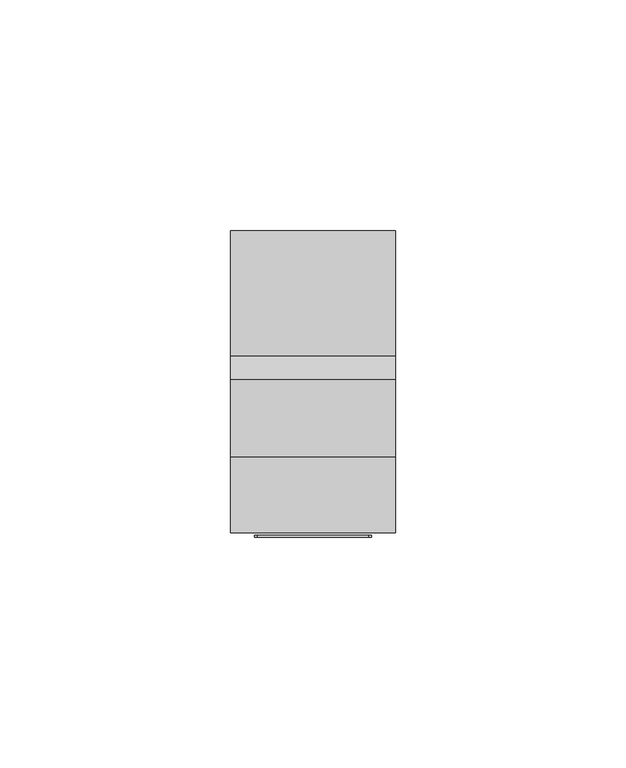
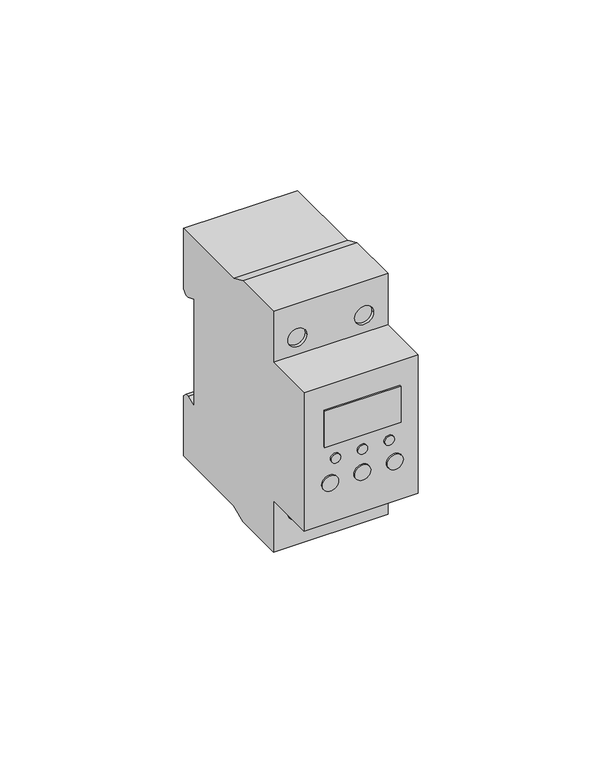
"""IFC4 building model written with IfcOpenShell, lengths in millimetres: proxy geometry, TDM_РЕЛЕ КОНТРОЛЯ НАПРЯЖЕНИЯ СЕРИИ РН 2 : 40А."""

from ifc_helpers import new_model, si_unit, point, frame, frame_2d, origin, place, context, project, spatial, polyline, circle_curve, trimmed, segment, composite_curve, outline, extrude, source, transform, mapped, element, save
from ifc_brep_helpers import plane_surface, revolved_surface, advanced_brep


def electrical_equipment_1063454b(model_context):
    return source(origin(), model_context, "Body", "SolidModel", [
        extrude(outline(composite_curve([segment(trimmed(circle_curve(frame_2d((-1.58976, 0.0)), 1.5), [point((-1.58976, -1.5))], [point((-1.58976, 1.5))], False, "CARTESIAN"), True, "CONTINUOUS"), segment(trimmed(circle_curve(frame_2d((-1.58976, 0.0)), 1.5), [point((-1.58976, 1.5))], [point((-1.58976, -1.5))], False, "CARTESIAN"), True, "CONTINUOUS")], self_intersect=False)), frame((0.0, -28.9880596, 0.0), z_axis=(0.0, 1.0, 0.0), x_axis=(0.0, 0.0, 1.0)), (0.0, 0.0, 1.0), 0.4880596),
        extrude(outline(composite_curve([segment(trimmed(circle_curve(frame_2d((-1.58976, 8.4375)), 1.5), [point((-1.58976, 6.9375))], [point((-1.58976, 9.9375))], False, "CARTESIAN"), True, "CONTINUOUS"), segment(trimmed(circle_curve(frame_2d((-1.58976, 8.4375)), 1.5), [point((-1.58976, 9.9375))], [point((-1.58976, 6.9375))], False, "CARTESIAN"), True, "CONTINUOUS")], self_intersect=False)), frame((0.0, -28.9880596, 0.0), z_axis=(0.0, 1.0, 0.0), x_axis=(0.0, 0.0, 1.0)), (0.0, 0.0, 1.0), 0.4880596),
        extrude(outline(composite_curve([segment(trimmed(circle_curve(frame_2d((-1.58976, -8.4375)), 1.5), [point((-1.58976, -6.9375))], [point((-1.58976, -9.9375))], False, "CARTESIAN"), True, "CONTINUOUS"), segment(trimmed(circle_curve(frame_2d((-1.58976, -8.4375)), 1.5), [point((-1.58976, -9.9375))], [point((-1.58976, -6.9375))], False, "CARTESIAN"), True, "CONTINUOUS")], self_intersect=False)), frame((0.0, -28.9880596, 0.0), z_axis=(0.0, 1.0, 0.0), x_axis=(0.0, 0.0, 1.0)), (0.0, 0.0, 1.0), 0.4880596),
        extrude(outline(polyline([(12.0, -28.9880596), (-12.0, -28.9880596), (-12.0, -28.5), (12.0, -28.5), (12.0, -28.9880596)])), frame((0.0, 0.0, 3.2742236), z_axis=(0.0, 0.0, 1.0), x_axis=(1.0, 0.0, 0.0)), (0.0, 0.0, 1.0), 12.0),
        extrude(outline(composite_curve([segment(trimmed(circle_curve(frame_2d((-9.2603806, 10.1691544)), 2.5), [point((-9.2603806, 7.6691544))], [point((-9.2603806, 12.6691544))], False, "CARTESIAN"), True, "CONTINUOUS"), segment(trimmed(circle_curve(frame_2d((-9.2603806, 10.1691544)), 2.5), [point((-9.2603806, 12.6691544))], [point((-9.2603806, 7.6691544))], False, "CARTESIAN"), True, "CONTINUOUS")], self_intersect=False)), frame((0.0, -28.9880596, 0.0), z_axis=(0.0, 1.0, 0.0), x_axis=(0.0, 0.0, 1.0)), (0.0, 0.0, 1.0), 0.4880596),
        extrude(outline(composite_curve([segment(trimmed(circle_curve(frame_2d((-9.2603806, 0.0)), 2.5), [point((-9.2603806, -2.5))], [point((-9.2603806, 2.5))], False, "CARTESIAN"), True, "CONTINUOUS"), segment(trimmed(circle_curve(frame_2d((-9.2603806, 0.0)), 2.5), [point((-9.2603806, 2.5))], [point((-9.2603806, -2.5))], False, "CARTESIAN"), True, "CONTINUOUS")], self_intersect=False)), frame((0.0, -28.9880596, 0.0), z_axis=(0.0, 1.0, 0.0), x_axis=(0.0, 0.0, 1.0)), (0.0, 0.0, 1.0), 0.4880596),
        extrude(outline(composite_curve([segment(trimmed(circle_curve(frame_2d((-9.2603806, -10.1691544)), 2.5), [point((-9.2603806, -7.6691544))], [point((-9.2603806, -12.6691544))], False, "CARTESIAN"), True, "CONTINUOUS"), segment(trimmed(circle_curve(frame_2d((-9.2603806, -10.1691544)), 2.5), [point((-9.2603806, -12.6691544))], [point((-9.2603806, -7.6691544))], False, "CARTESIAN"), True, "CONTINUOUS")], self_intersect=False)), frame((0.0, -28.9880596, 0.0), z_axis=(0.0, 1.0, 0.0), x_axis=(0.0, 0.0, 1.0)), (0.0, 0.0, 1.0), 0.4880596),
        extrude(outline(polyline([(17.0, 16.6821204), (17.0, -10.1906439), (-17.0, -10.1906439), (-17.0, 16.6821204), (17.0, 16.6821204)])), frame((0.0, 0.0, -35.0), z_axis=(0.0, 0.0, 1.0), x_axis=(1.0, 0.0, 0.0)), (0.0, 0.0, 1.0), 69.8255916),
        advanced_brep(
        [(17.9, 31.7632568, 17.6849107), (17.9, 35.0847834, 16.3819616), (17.9, 36.1970509, 16.3819616), (17.9, 37.5, 17.6849107), (17.9, 37.5, 37.75), (17.9, 10.3211256, 37.75), (17.9, 5.2052814, 40.0), (17.9, -11.5, 40.0), (17.9, -11.5, 23.0), (17.9, -28.0, 23.0), (17.9, -28.0, -23.0), (17.9, -11.5, -23.0), (17.9, -11.5, -40.0), (17.9, 5.2052814, -40.0), (17.9, 10.3211256, -37.75), (17.9, 37.5, -37.75), (17.9, 37.5, -17.7942857), (17.9, 36.1970509, -16.4913366), (17.9, 35.0847834, -16.4913366), (17.9, 31.7632568, -17.7942857), (-17.9, 31.7632568, 17.7057143), (-17.9, 31.7632568, -17.7942857), (-17.9, 35.0847834, -16.4913366), (-17.9, 36.1970509, -16.4913366), (-17.9, 37.5, -17.7942857), (-17.9, 37.5, -37.75), (-17.9, 10.3211256, -37.75), (-17.9, 5.2052814, -40.0), (-17.9, -11.5, -40.0), (-17.9, -11.5, -23.0), (-17.9, -28.0, -23.0), (-17.9, -28.0, 23.0), (-17.9, -11.5, 23.0), (-17.9, -11.5, 40.0), (-17.9, 5.2052814, 40.0), (-17.9, 10.3211256, 37.75), (-17.9, 37.5, 37.75), (-17.9, 37.5, 17.6849107), (-17.9, 36.1970509, 16.3819616), (-17.9, 35.0847834, 16.3819616), (7.5, -8.8717742, 28.6903679), (13.5, -8.8717742, 28.6903679), (-7.5, -8.8717742, 28.6903679), (-13.5, -8.8717742, 28.6903679), (7.5, -8.8717742, -28.6903679), (13.5, -8.8717742, -28.6903679), (-7.5, -8.8717742, -28.6903679), (-13.5, -8.8717742, -28.6903679), (7.5, -11.5, 28.6903679), (13.5, -11.5, 28.6903679), (-13.5, -11.5, 28.6903679), (-7.5, -11.5, 28.6903679), (13.5, -11.5, -28.6903679), (7.5, -11.5, -28.6903679), (-13.5, -11.5, -28.6903679), (-7.5, -11.5, -28.6903679)],
        [
            (0, 1),
            (1, 2),
            (2, 3),
            (3, 4),
            (4, 5),
            (5, 6),
            (6, 7),
            (7, 8),
            (8, 9),
            (9, 10),
            (10, 11),
            (11, 12),
            (12, 13),
            (13, 14),
            (14, 15),
            (15, 16),
            (16, 17),
            (17, 18),
            (18, 19),
            (19, 0),
            (20, 21),
            (21, 22),
            (22, 23),
            (23, 24),
            (24, 25),
            (25, 26),
            (26, 27),
            (27, 28),
            (28, 29),
            (29, 30),
            (30, 31),
            (31, 32),
            (32, 33),
            (33, 34),
            (34, 35),
            (35, 36),
            (36, 37),
            (37, 38),
            (38, 39),
            (39, 20),
            (3, 37),
            (36, 4),
            (15, 25),
            (24, 16),
            (19, 21),
            (20, 0),
            (40, 41, circle_curve(frame((10.5, -8.8717742, 28.6903679), z_axis=(0.0, -1.0, 0.0), x_axis=(1.0, 0.0, 0.0)), 3.0)),
            (41, 40, circle_curve(frame((10.5, -8.8717742, 28.6903679), z_axis=(0.0, -1.0, 0.0), x_axis=(1.0, 0.0, 0.0)), 3.0)),
            (42, 43, circle_curve(frame((-10.5, -8.8717742, 28.6903679), z_axis=(0.0, -1.0, 0.0), x_axis=(-1.0, 0.0, 0.0)), 3.0)),
            (43, 42, circle_curve(frame((-10.5, -8.8717742, 28.6903679), z_axis=(0.0, -1.0, 0.0), x_axis=(-1.0, 0.0, 0.0)), 3.0)),
            (44, 45, circle_curve(frame((10.5, -8.8717742, -28.6903679), z_axis=(0.0, -1.0, 0.0), x_axis=(1.0, 0.0, 0.0)), 3.0)),
            (45, 44, circle_curve(frame((10.5, -8.8717742, -28.6903679), z_axis=(0.0, -1.0, 0.0), x_axis=(1.0, 0.0, 0.0)), 3.0)),
            (46, 47, circle_curve(frame((-10.5, -8.8717742, -28.6903679), z_axis=(0.0, -1.0, 0.0), x_axis=(-1.0, 0.0, 0.0)), 3.0)),
            (47, 46, circle_curve(frame((-10.5, -8.8717742, -28.6903679), z_axis=(0.0, -1.0, 0.0), x_axis=(-1.0, 0.0, 0.0)), 3.0)),
            (8, 32),
            (31, 9),
            (30, 10),
            (40, 48),
            (48, 49, circle_curve(frame((10.5, -11.5, 28.6903679), z_axis=(0.0, -1.0, 0.0), x_axis=(1.0, 0.0, 0.0)), 3.0)),
            (49, 41),
            (49, 48, circle_curve(frame((10.5, -11.5, 28.6903679), z_axis=(0.0, -1.0, 0.0), x_axis=(1.0, 0.0, 0.0)), 3.0)),
            (6, 34),
            (33, 7),
            (50, 51, circle_curve(frame((-10.5, -11.5, 28.6903679), z_axis=(0.0, 1.0, 0.0), x_axis=(-1.0, 0.0, 0.0)), 3.0)),
            (51, 50, circle_curve(frame((-10.5, -11.5, 28.6903679), z_axis=(0.0, 1.0, 0.0), x_axis=(-1.0, 0.0, 0.0)), 3.0)),
            (29, 11),
            (28, 12),
            (52, 53, circle_curve(frame((10.5, -11.5, -28.6903679), z_axis=(0.0, 1.0, 0.0), x_axis=(1.0, 0.0, 0.0)), 3.0)),
            (53, 52, circle_curve(frame((10.5, -11.5, -28.6903679), z_axis=(0.0, 1.0, 0.0), x_axis=(1.0, 0.0, 0.0)), 3.0)),
            (54, 55, circle_curve(frame((-10.5, -11.5, -28.6903679), z_axis=(0.0, 1.0, 0.0), x_axis=(-1.0, 0.0, 0.0)), 3.0)),
            (55, 54, circle_curve(frame((-10.5, -11.5, -28.6903679), z_axis=(0.0, 1.0, 0.0), x_axis=(-1.0, 0.0, 0.0)), 3.0)),
            (27, 13),
            (42, 51),
            (50, 43),
            (44, 53),
            (52, 45),
            (46, 55),
            (54, 47),
            (35, 5),
            (14, 26),
            (39, 1),
            (38, 2),
            (23, 17),
            (22, 18),
        ],
        [
            plane_surface(frame((17.9, 35.0847834, 16.3819616), z_axis=(1.0, 0.0, 0.0), x_axis=(0.0, 0.930936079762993, -0.3651821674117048))),
            plane_surface(frame((-17.9, 35.0847834, 16.3819616), z_axis=(-1.0, 0.0, 0.0), x_axis=(0.0, -0.930936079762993, 0.3651821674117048))),
            plane_surface(frame((17.9, 37.5, 17.6849107), z_axis=(0.0, 1.0, 0.0), x_axis=(-1.0, 0.0, 0.0))),
            plane_surface(frame((17.9, 37.5, -37.75), z_axis=(0.0, 1.0, 0.0), x_axis=(-1.0, 0.0, 0.0))),
            plane_surface(frame((17.9, 31.7632568, -17.7942857), z_axis=(0.0, 1.0, 0.0), x_axis=(-1.0, 0.0, 0.0))),
            plane_surface(frame((13.5, -8.8717742, 28.6903679), z_axis=(0.0, -1.0, 0.0), x_axis=(0.0, 0.0, -1.0))),
            plane_surface(frame((17.9, -11.5, 23.0), z_axis=(0.0, 0.0, 1.0), x_axis=(-1.0, 0.0, 0.0))),
            plane_surface(frame((17.9, -28.0, 23.0), z_axis=(0.0, -1.0, 0.0), x_axis=(-1.0, 0.0, 0.0))),
            revolved_surface(polyline([(13.5, -11.5, 28.6903679), (13.5, -8.8717742, 28.6903679)]), (10.5, -8.8717742, 28.6903679), (0.0, -1.0, 0.0)),
            plane_surface(frame((17.9, 5.2052814, 40.0), z_axis=(0.0, 0.0, 1.0), x_axis=(-1.0, 0.0, 0.0))),
            plane_surface(frame((17.9, -11.5, 40.0), z_axis=(0.0, -1.0, 0.0), x_axis=(-1.0, 0.0, 0.0))),
            plane_surface(frame((17.9, -28.0, -23.0), z_axis=(0.0, 0.0, -1.0), x_axis=(-1.0, 0.0, 0.0))),
            plane_surface(frame((17.9, -11.5, -23.0), z_axis=(0.0, -1.0, 0.0), x_axis=(-1.0, 0.0, 0.0))),
            plane_surface(frame((17.9, -11.5, -40.0), z_axis=(0.0, 0.0, -1.0), x_axis=(-1.0, 0.0, 0.0))),
            revolved_surface(polyline([(-13.5, -11.5, 28.6903679), (-13.5, -8.8717742, 28.6903679)]), (-10.5, 0.0, 28.6903679), (0.0, -1.0, 0.0)),
            revolved_surface(polyline([(13.5, -11.5, -28.6903679), (13.5, -8.8717742, -28.6903679)]), (10.5, 0.0, -28.6903679), (0.0, -1.0, 0.0)),
            revolved_surface(polyline([(-13.5, -11.5, -28.6903679), (-13.5, -8.8717742, -28.6903679)]), (-10.5, 0.0, -28.6903679), (0.0, -1.0, 0.0)),
            plane_surface(frame((17.9, 37.5, 37.75), z_axis=(0.0, 0.0, 1.0), x_axis=(-1.0, 0.0, 0.0))),
            plane_surface(frame((17.9, 10.3211256, -37.75), z_axis=(0.0, 0.0, -1.0), x_axis=(-1.0, 0.0, 0.0))),
            plane_surface(frame((17.9, 31.7632568, 17.6849107), z_axis=(0.0, -0.3651821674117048, -0.930936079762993), x_axis=(-1.0, 0.0, 0.0))),
            plane_surface(frame((17.9, 35.0847834, 16.3819616), z_axis=(0.0, 0.0, -1.0), x_axis=(-1.0, 0.0, 0.0))),
            plane_surface(frame((17.9, 36.1970509, 16.3819616), z_axis=(0.0, 0.7071067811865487, -0.7071067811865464), x_axis=(-1.0, 0.0, 0.0))),
            plane_surface(frame((17.9, 10.3211256, 37.75), z_axis=(0.0, 0.40259298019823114, 0.9153790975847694), x_axis=(-1.0, 0.0, 0.0))),
            plane_surface(frame((17.9, 5.2052814, -40.0), z_axis=(0.0, 0.4025929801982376, -0.9153790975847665), x_axis=(-1.0, 0.0, 0.0))),
            plane_surface(frame((17.9, 37.5, -17.7942857), z_axis=(0.0, 0.7071067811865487, 0.7071067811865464), x_axis=(-1.0, 0.0, 0.0))),
            plane_surface(frame((17.9, 36.1970509, -16.4913366), z_axis=(0.0, 0.0, 1.0), x_axis=(-1.0, 0.0, 0.0))),
            plane_surface(frame((17.9, 35.0847834, -16.4913366), z_axis=(0.0, -0.3651821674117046, 0.9309360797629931), x_axis=(-1.0, 0.0, 0.0))),
        ],
        [
            (0, [[1, 2, 3, 4, 5, 6, 7, 8, 9, 10, 11, 12, 13, 14, 15, 16, 17, 18, 19, 20]]),
            (1, [[21, 22, 23, 24, 25, 26, 27, 28, 29, 30, 31, 32, 33, 34, 35, 36, 37, 38, 39, 40]]),
            (2, [[-4, 41, -37, 42]]),
            (3, [[-16, 43, -25, 44]]),
            (4, [[-20, 45, -21, 46]]),
            (5, [[47, 48]]),
            (5, [[49, 50]]),
            (5, [[51, 52]]),
            (5, [[53, 54]]),
            (6, [[-9, 55, -32, 56]]),
            (7, [[-10, -56, -31, 57]]),
            (8, [[-47, 58, 59, 60]]),
            (8, [[-48, -60, 61, -58]]),
            (9, [[-7, 62, -34, 63]]),
            (10, [[-8, -63, -33, -55], [-59, -61], [64, 65]]),
            (11, [[-11, -57, -30, 66]]),
            (12, [[-12, -66, -29, 67], [68, 69], [70, 71]]),
            (13, [[-13, -67, -28, 72]]),
            (14, [[-49, 73, -64, 74]]),
            (14, [[-50, -74, -65, -73]]),
            (15, [[-51, 75, -68, 76]]),
            (15, [[-52, -76, -69, -75]]),
            (16, [[-53, 77, -70, 78]]),
            (16, [[-54, -78, -71, -77]]),
            (17, [[-5, -42, -36, 79]]),
            (18, [[-15, 80, -26, -43]]),
            (19, [[-1, -46, -40, 81]]),
            (20, [[-2, -81, -39, 82]]),
            (21, [[-3, -82, -38, -41]]),
            (22, [[-6, -79, -35, -62]]),
            (23, [[-14, -72, -27, -80]]),
            (24, [[-17, -44, -24, 83]]),
            (25, [[-18, -83, -23, 84]]),
            (26, [[-19, -84, -22, -45]]),
        ],
    ),
    ])


if __name__ == "__main__":
    model = new_model("IFC4")
    model_context = context("Model", 3, world=origin())
    ifc_project = project(units=[si_unit("LENGTHUNIT", "METRE", prefix="MILLI")], contexts=[model_context])
    site = spatial("IfcSite", under=ifc_project)
    building = spatial("IfcBuilding", under=site)
    placement = place(None, origin())
    electrical_equipment_shape = electrical_equipment_1063454b(model_context)
    element("IfcBuildingElementProxy", 1, Name="TDM_РЕЛЕ КОНТРОЛЯ НАПРЯЖЕНИЯ СЕРИИ РН 2 : 40А", ObjectType="TDM_РЕЛЕ КОНТРОЛЯ НАПРЯЖЕНИЯ СЕРИИ РН 2 : 40А", at=placement, inside=building, context=model_context, shape_type="MappedRepresentation", body=[
        mapped(electrical_equipment_shape, transform((0.0, 0.0, 0.0), x_axis=(1.0, 0.0, 0.0), y_axis=(0.0, 1.0, 0.0), z_axis=(0.0, 0.0, 1.0))),
    ])
    save(model, "model.ifc")
